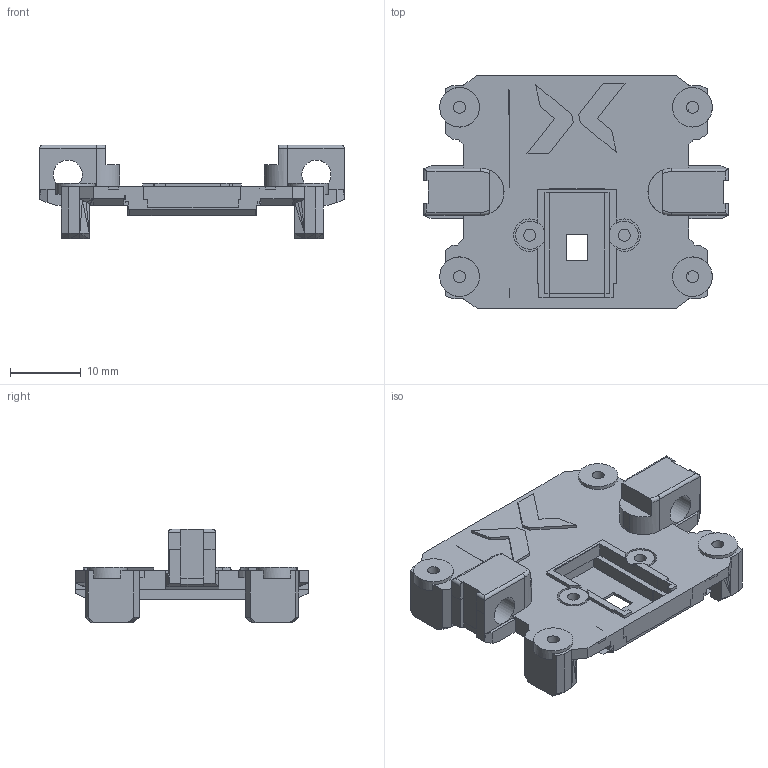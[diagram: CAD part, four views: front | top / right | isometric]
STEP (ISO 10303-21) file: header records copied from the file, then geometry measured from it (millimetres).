
FILE_DESCRIPTION(('Open CASCADE Model'),'2;1');
FILE_NAME('Open CASCADE Shape Model','2026-10-27T12:27:29',('Author'),( 'Open CASCADE'),'Open CASCADE STEP processor 7.9','Open CASCADE 7.9' ,'Unknown');
FILE_SCHEMA(('AUTOMOTIVE_DESIGN { 1 0 10303 214 1 1 1 1 }'));
Length unit declared in the file: millimetre
Products named in the file (1): Open CASCADE STEP translator 7.9 1
Bounding box: 43.15 x 32.95 x 13.28 mm (x, y, z)
Volume: 4617.3 mm3; surface area: 4348.4 mm2
Topology: 1 solids, 1 shells, 477 faces, 1432 edges, 964 vertices
Faces by surface type: plane 430, cylinder 38, torus 4, bspline 4, cone 1
Full cylindrical faces by diameter (mm): 1.7 x6, 5.6 x4
Entity records: 34896 total; most frequent: CARTESIAN_POINT 6519, DIRECTION 5153, LINE 3936, VECTOR 3936, ORIENTED_EDGE 2864, PCURVE 2864, DEFINITIONAL_REPRESENTATION 2864, EDGE_CURVE 1432
